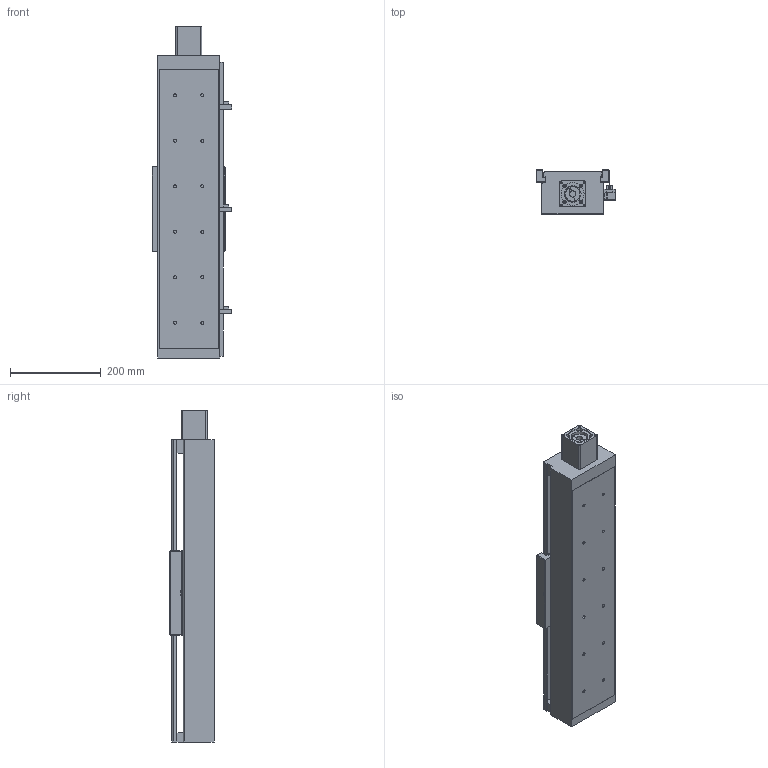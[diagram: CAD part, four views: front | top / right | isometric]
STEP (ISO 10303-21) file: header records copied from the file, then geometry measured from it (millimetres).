
FILE_DESCRIPTION((''),'2;1');
FILE_NAME('E:\libraries\UIA actuator library 2009\standard actuator\UIA136 ball screw 20\UIA136R15NDC stp file 27Apr16\UIA136R15NDC-400-R20_ _-M60-P13-C10-S.stp','2016-04-27T13:03:11',('h029'),(''),'Autodesk Inventor 11','Autodesk Inventor 11','');
FILE_SCHEMA(('AUTOMOTIVE_DESIGN { 1 0 10303 214 1 1 1 1 }'));
Length unit declared in the file: millimetre
Products named in the file (10): UIA136R15NDC-400; UIA136R15NDC-body; motor mount F60; SOH-32C; SOH-32C-3; SOH-32C-1; SOH-32C-2; Carriage; Sensor Switch; sensor rail
Assembly tree (9 placements, depth 3):
  UIA136R15NDC-400
    UIA136R15NDC-body
    motor mount F60
    SOH-32C
      SOH-32C-3
      SOH-32C-1
      SOH-32C-2
    Carriage
    Sensor Switch
    sensor rail
Bounding box: 174.5 x 98 x 730 mm (x, y, z)
Volume: 3082362.1 mm3; surface area: 799093.4 mm2
Topology: 8 solids, 8 shells, 479 faces, 1269 edges, 833 vertices
Faces by surface type: plane 311, bspline 126, cylinder 38, cone 4
Full cylindrical faces by diameter (mm): 2.459 x2, 3.242 x2, 4.5 x2, 5.5 x3, 7.5 x2, 10 x2, 12 x1, 14 x1, 32 x3, 37 x1, 41.9 x1, 42.1 x1, 43.5 x1
Entity records: 15715 total; most frequent: CARTESIAN_POINT 4562, ORIENTED_EDGE 2162, DIRECTION 2098, EDGE_CURVE 1081, VECTOR 790, LINE 790, VERTEX_POINT 768, EDGE_LOOP 705
